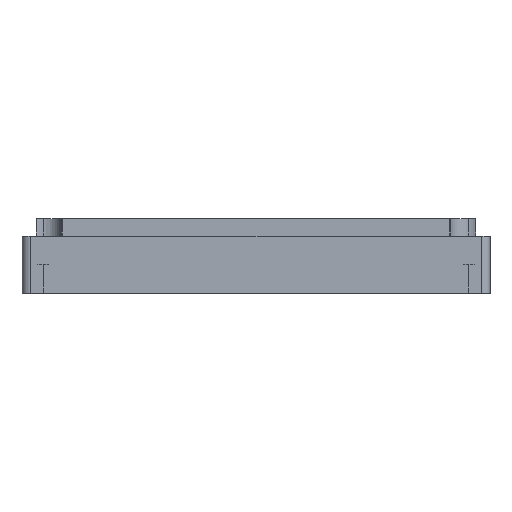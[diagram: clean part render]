
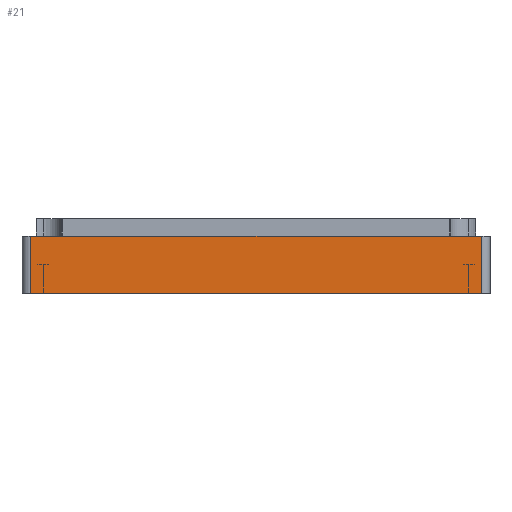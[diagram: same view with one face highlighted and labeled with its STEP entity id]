
A CAD part, left-side view. The second image highlights one B-rep face of the part: STEP entity #21.
In plain terms, the highlighted planar face has unit normal (-1, 0, 0).
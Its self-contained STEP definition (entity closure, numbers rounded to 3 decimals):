
#21 = ADVANCED_FACE ( 'NONE', ( #8830 ), #3057, .F. ) ;
#48 = EDGE_CURVE ( 'NONE', #5331, #7515, #4450, .T. ) ;
#446 = DIRECTION ( 'NONE',  ( 0., 0., -1. ) ) ;
#488 = CARTESIAN_POINT ( 'NONE',  ( -55., 39.5, 0. ) ) ;
#893 = DIRECTION ( 'NONE',  ( 0., 0., -1. ) ) ;
#1958 = DIRECTION ( 'NONE',  ( 0., -1., 0. ) ) ;
#2217 = CARTESIAN_POINT ( 'NONE',  ( -55., -39.5, 10. ) ) ;
#2326 = AXIS2_PLACEMENT_3D ( 'NONE', #3809, #3868, #6776 ) ;
#2371 = EDGE_CURVE ( 'NONE', #5331, #4167, #5222, .T. ) ;
#2432 = CARTESIAN_POINT ( 'NONE',  ( -55., 39.5, 10. ) ) ;
#2563 = CARTESIAN_POINT ( 'NONE',  ( -55., -39.5, 10. ) ) ;
#2672 = CARTESIAN_POINT ( 'NONE',  ( -55., 39.5, 10. ) ) ;
#2678 = ORIENTED_EDGE ( 'NONE', *, *, #2371, .F. ) ;
#2914 = VECTOR ( 'NONE', #3641, 1000. ) ;
#3057 = PLANE ( 'NONE',  #2326 ) ;
#3641 = DIRECTION ( 'NONE',  ( 0., -1., 0. ) ) ;
#3667 = CARTESIAN_POINT ( 'NONE',  ( -55., 39.5, 0. ) ) ;
#3809 = CARTESIAN_POINT ( 'NONE',  ( -55., 39.5, 10. ) ) ;
#3868 = DIRECTION ( 'NONE',  ( 1., 0., 0. ) ) ;
#4003 = VECTOR ( 'NONE', #893, 1000. ) ;
#4167 = VERTEX_POINT ( 'NONE', #2217 ) ;
#4450 = LINE ( 'NONE', #8908, #4003 ) ;
#4596 = LINE ( 'NONE', #3667, #2914 ) ;
#4661 = EDGE_CURVE ( 'NONE', #7515, #8894, #4596, .T. ) ;
#4874 = CARTESIAN_POINT ( 'NONE',  ( -55., -39.5, 0. ) ) ;
#5109 = VECTOR ( 'NONE', #1958, 1000. ) ;
#5207 = EDGE_LOOP ( 'NONE', ( #7354, #6604, #2678, #5819 ) ) ;
#5222 = LINE ( 'NONE', #2672, #5109 ) ;
#5331 = VERTEX_POINT ( 'NONE', #2432 ) ;
#5819 = ORIENTED_EDGE ( 'NONE', *, *, #48, .T. ) ;
#6604 = ORIENTED_EDGE ( 'NONE', *, *, #7298, .F. ) ;
#6776 = DIRECTION ( 'NONE',  ( 0., 0., -1. ) ) ;
#7298 = EDGE_CURVE ( 'NONE', #4167, #8894, #9497, .T. ) ;
#7354 = ORIENTED_EDGE ( 'NONE', *, *, #4661, .T. ) ;
#7515 = VERTEX_POINT ( 'NONE', #488 ) ;
#8001 = VECTOR ( 'NONE', #446, 1000. ) ;
#8830 = FACE_OUTER_BOUND ( 'NONE', #5207, .T. ) ;
#8894 = VERTEX_POINT ( 'NONE', #4874 ) ;
#8908 = CARTESIAN_POINT ( 'NONE',  ( -55., 39.5, 10. ) ) ;
#9497 = LINE ( 'NONE', #2563, #8001 ) ;
